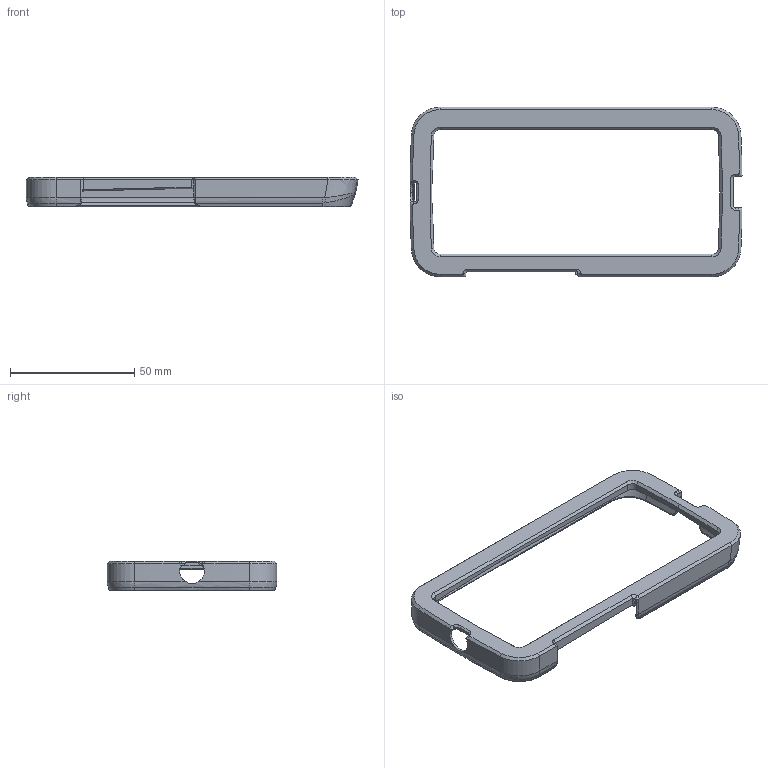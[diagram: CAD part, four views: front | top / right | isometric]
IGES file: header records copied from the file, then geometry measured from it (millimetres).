
Start section: SolidWorks IGES file using analytic representation for surfaces
Global section: file name: C:\Users\Andrew Sorg\Desktop\MotoX_Case_v2.IGS; native system: SolidWorks 2014; preprocessor: SolidWorks 2014; author: Andrew Sorg; date: 141110.145602; units: millimetre
Bounding box: 133.4 x 68.13 x 12 mm (x, y, z)
Volume: 12894.6 mm3; surface area: 13293.7 mm2
Topology: 1 solids, 1 shells, 172 faces, 431 edges, 251 vertices
Faces by surface type: revolution 77, bspline 59, plane 36
